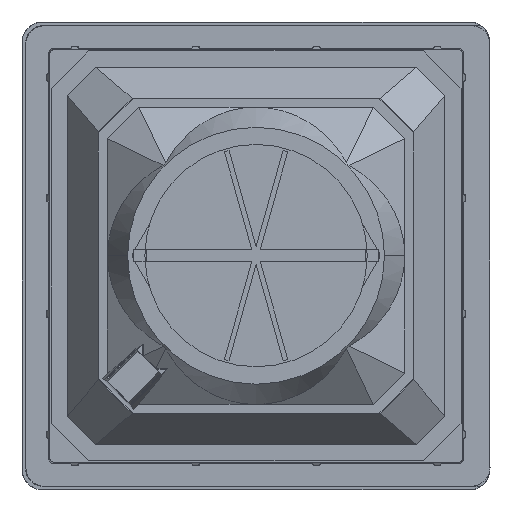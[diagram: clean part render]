
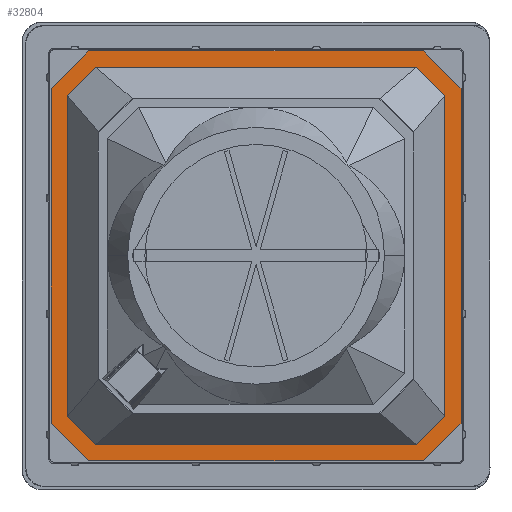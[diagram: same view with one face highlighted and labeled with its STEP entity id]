
A CAD part, top view. The second image highlights one B-rep face of the part: STEP entity #32804.
In plain terms, the highlighted planar face has unit normal (0, 0, 1) as drawn and (0, -1, 0) by its records, which use the part's own axes.
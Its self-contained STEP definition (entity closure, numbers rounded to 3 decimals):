
#233 = DIRECTION ( 'NONE',  ( 0.709, 0., -0.705 ) ) ;
#280 = VERTEX_POINT ( 'NONE', #30548 ) ;
#289 = DIRECTION ( 'NONE',  ( 0., 0., 1. ) ) ;
#455 = ORIENTED_EDGE ( 'NONE', *, *, #34379, .F. ) ;
#550 = DIRECTION ( 'NONE',  ( 0.707, 0., 0.707 ) ) ;
#623 = LINE ( 'NONE', #2742, #21824 ) ;
#698 = VERTEX_POINT ( 'NONE', #18948 ) ;
#1031 = CARTESIAN_POINT ( 'NONE',  ( -142.35, -95.872, 142.35 ) ) ;
#1241 = DIRECTION ( 'NONE',  ( -0.707, 0., 0.707 ) ) ;
#1847 = VERTEX_POINT ( 'NONE', #13778 ) ;
#1862 = CARTESIAN_POINT ( 'NONE',  ( -142.35, -95.872, 0. ) ) ;
#1927 = CARTESIAN_POINT ( 'NONE',  ( -111.488, -95.872, 131.21 ) ) ;
#1941 = CARTESIAN_POINT ( 'NONE',  ( -142.35, -95.872, -116.301 ) ) ;
#2088 = ORIENTED_EDGE ( 'NONE', *, *, #15304, .F. ) ;
#2500 = ORIENTED_EDGE ( 'NONE', *, *, #7179, .T. ) ;
#2742 = CARTESIAN_POINT ( 'NONE',  ( -13.025, -95.872, 271.675 ) ) ;
#2807 = EDGE_LOOP ( 'NONE', ( #11866, #8388, #28925, #12935, #8085, #2500, #12110, #3244 ) ) ;
#3244 = ORIENTED_EDGE ( 'NONE', *, *, #6241, .T. ) ;
#4212 = LINE ( 'NONE', #4373, #20444 ) ;
#4296 = LINE ( 'NONE', #26080, #27363 ) ;
#4373 = CARTESIAN_POINT ( 'NONE',  ( 0., -95.872, -131.21 ) ) ;
#4504 = AXIS2_PLACEMENT_3D ( 'NONE', #1031, #17331, #14627 ) ;
#4759 = CARTESIAN_POINT ( 'NONE',  ( 111.488, -95.872, -131.21 ) ) ;
#6241 = EDGE_CURVE ( 'NONE', #25607, #34564, #30749, .T. ) ;
#6312 = VECTOR ( 'NONE', #12032, 1000. ) ;
#7042 = DIRECTION ( 'NONE',  ( 0., 0., -1. ) ) ;
#7179 = EDGE_CURVE ( 'NONE', #25467, #10070, #13829, .T. ) ;
#8085 = ORIENTED_EDGE ( 'NONE', *, *, #24627, .T. ) ;
#8388 = ORIENTED_EDGE ( 'NONE', *, *, #23930, .T. ) ;
#8708 = EDGE_CURVE ( 'NONE', #34564, #24334, #10946, .T. ) ;
#8940 = DIRECTION ( 'NONE',  ( 1., 0., 0. ) ) ;
#9088 = PLANE ( 'NONE',  #4504 ) ;
#9209 = VECTOR ( 'NONE', #8940, 1000. ) ;
#9273 = LINE ( 'NONE', #25338, #19302 ) ;
#9391 = LINE ( 'NONE', #1862, #17785 ) ;
#9484 = CARTESIAN_POINT ( 'NONE',  ( 0., -95.872, -142.35 ) ) ;
#9847 = DIRECTION ( 'NONE',  ( -0.707, 0., -0.707 ) ) ;
#10070 = VERTEX_POINT ( 'NONE', #19174 ) ;
#10090 = CARTESIAN_POINT ( 'NONE',  ( -131.21, -95.872, -111.488 ) ) ;
#10151 = DIRECTION ( 'NONE',  ( -0.709, 0., -0.705 ) ) ;
#10818 = VERTEX_POINT ( 'NONE', #10090 ) ;
#10946 = LINE ( 'NONE', #16124, #25614 ) ;
#11857 = CARTESIAN_POINT ( 'NONE',  ( 142.35, -95.872, -116.301 ) ) ;
#11866 = ORIENTED_EDGE ( 'NONE', *, *, #8708, .T. ) ;
#12032 = DIRECTION ( 'NONE',  ( 0.707, 0., 0.707 ) ) ;
#12110 = ORIENTED_EDGE ( 'NONE', *, *, #28928, .T. ) ;
#12168 = CARTESIAN_POINT ( 'NONE',  ( -129.326, -95.872, 129.258 ) ) ;
#12237 = EDGE_CURVE ( 'NONE', #23015, #10818, #31512, .T. ) ;
#12935 = ORIENTED_EDGE ( 'NONE', *, *, #25424, .T. ) ;
#13353 = VECTOR ( 'NONE', #233, 1000. ) ;
#13752 = EDGE_CURVE ( 'NONE', #10818, #698, #9273, .T. ) ;
#13778 = CARTESIAN_POINT ( 'NONE',  ( 131.21, -95.872, 111.488 ) ) ;
#13829 = LINE ( 'NONE', #24724, #13353 ) ;
#13991 = EDGE_CURVE ( 'NONE', #23228, #20259, #33481, .T. ) ;
#14627 = DIRECTION ( 'NONE',  ( 0., 0., -1. ) ) ;
#15226 = ORIENTED_EDGE ( 'NONE', *, *, #16985, .F. ) ;
#15304 = EDGE_CURVE ( 'NONE', #15811, #280, #27737, .T. ) ;
#15811 = VERTEX_POINT ( 'NONE', #4759 ) ;
#16124 = CARTESIAN_POINT ( 'NONE',  ( 142.35, -95.872, 0. ) ) ;
#16428 = DIRECTION ( 'NONE',  ( -1., 0., 0. ) ) ;
#16567 = CARTESIAN_POINT ( 'NONE',  ( 131.21, -95.872, 0. ) ) ;
#16640 = LINE ( 'NONE', #21825, #34254 ) ;
#16839 = DIRECTION ( 'NONE',  ( 0., 0., 1. ) ) ;
#16985 = EDGE_CURVE ( 'NONE', #34479, #23015, #4296, .T. ) ;
#17331 = DIRECTION ( 'NONE',  ( 0., -1., 0. ) ) ;
#17390 = EDGE_LOOP ( 'NONE', ( #34049, #29949, #27021, #15226, #23674, #455, #25372, #2088 ) ) ;
#17785 = VECTOR ( 'NONE', #29516, 1000. ) ;
#18033 = LINE ( 'NONE', #12168, #33042 ) ;
#18388 = VECTOR ( 'NONE', #7042, 1000. ) ;
#18948 = CARTESIAN_POINT ( 'NONE',  ( -111.488, -95.872, -131.21 ) ) ;
#19174 = CARTESIAN_POINT ( 'NONE',  ( -116.165, -95.872, -142.35 ) ) ;
#19302 = VECTOR ( 'NONE', #24790, 1000. ) ;
#19376 = CARTESIAN_POINT ( 'NONE',  ( 116.301, -95.872, -142.35 ) ) ;
#19698 = CARTESIAN_POINT ( 'NONE',  ( 111.488, -95.872, -131.21 ) ) ;
#20182 = LINE ( 'NONE', #31069, #27943 ) ;
#20259 = VERTEX_POINT ( 'NONE', #30645 ) ;
#20421 = CARTESIAN_POINT ( 'NONE',  ( -131.21, -95.872, 111.488 ) ) ;
#20444 = VECTOR ( 'NONE', #20655, 1000. ) ;
#20532 = EDGE_CURVE ( 'NONE', #23999, #34479, #16640, .T. ) ;
#20655 = DIRECTION ( 'NONE',  ( 1., 0., 0. ) ) ;
#21436 = CARTESIAN_POINT ( 'NONE',  ( 116.301, -95.872, 142.35 ) ) ;
#21686 = VECTOR ( 'NONE', #289, 1000. ) ;
#21824 = VECTOR ( 'NONE', #29922, 1000. ) ;
#21825 = CARTESIAN_POINT ( 'NONE',  ( 0., -95.872, 131.21 ) ) ;
#22133 = VERTEX_POINT ( 'NONE', #28272 ) ;
#22769 = VECTOR ( 'NONE', #31166, 1000. ) ;
#23015 = VERTEX_POINT ( 'NONE', #33465 ) ;
#23228 = VERTEX_POINT ( 'NONE', #21436 ) ;
#23367 = FACE_OUTER_BOUND ( 'NONE', #2807, .T. ) ;
#23674 = ORIENTED_EDGE ( 'NONE', *, *, #20532, .F. ) ;
#23930 = EDGE_CURVE ( 'NONE', #24334, #23228, #623, .T. ) ;
#23999 = VERTEX_POINT ( 'NONE', #30288 ) ;
#24334 = VERTEX_POINT ( 'NONE', #24905 ) ;
#24603 = VECTOR ( 'NONE', #550, 1000. ) ;
#24627 = EDGE_CURVE ( 'NONE', #22133, #25467, #9391, .T. ) ;
#24724 = CARTESIAN_POINT ( 'NONE',  ( -271.674, -95.872, 12.351 ) ) ;
#24790 = DIRECTION ( 'NONE',  ( 0.707, 0., -0.707 ) ) ;
#24905 = CARTESIAN_POINT ( 'NONE',  ( 142.35, -95.872, 116.301 ) ) ;
#25338 = CARTESIAN_POINT ( 'NONE',  ( -131.21, -95.872, -111.488 ) ) ;
#25372 = ORIENTED_EDGE ( 'NONE', *, *, #26895, .F. ) ;
#25424 = EDGE_CURVE ( 'NONE', #20259, #22133, #18033, .T. ) ;
#25467 = VERTEX_POINT ( 'NONE', #1941 ) ;
#25607 = VERTEX_POINT ( 'NONE', #19376 ) ;
#25614 = VECTOR ( 'NONE', #16839, 1000. ) ;
#26080 = CARTESIAN_POINT ( 'NONE',  ( -111.488, -95.872, 131.21 ) ) ;
#26895 = EDGE_CURVE ( 'NONE', #280, #1847, #35306, .T. ) ;
#27021 = ORIENTED_EDGE ( 'NONE', *, *, #12237, .F. ) ;
#27363 = VECTOR ( 'NONE', #9847, 1000. ) ;
#27737 = LINE ( 'NONE', #19698, #6312 ) ;
#27890 = CARTESIAN_POINT ( 'NONE',  ( 129.325, -95.872, -129.325 ) ) ;
#27943 = VECTOR ( 'NONE', #1241, 1000. ) ;
#28272 = CARTESIAN_POINT ( 'NONE',  ( -142.35, -95.872, 116.301 ) ) ;
#28317 = CARTESIAN_POINT ( 'NONE',  ( 0., -95.872, 142.35 ) ) ;
#28749 = EDGE_CURVE ( 'NONE', #698, #15811, #4212, .T. ) ;
#28750 = FACE_BOUND ( 'NONE', #17390, .T. ) ;
#28925 = ORIENTED_EDGE ( 'NONE', *, *, #13991, .T. ) ;
#28928 = EDGE_CURVE ( 'NONE', #10070, #25607, #33951, .T. ) ;
#29516 = DIRECTION ( 'NONE',  ( 0., 0., -1. ) ) ;
#29922 = DIRECTION ( 'NONE',  ( -0.707, 0., 0.707 ) ) ;
#29949 = ORIENTED_EDGE ( 'NONE', *, *, #13752, .F. ) ;
#30288 = CARTESIAN_POINT ( 'NONE',  ( 111.488, -95.872, 131.21 ) ) ;
#30548 = CARTESIAN_POINT ( 'NONE',  ( 131.21, -95.872, -111.488 ) ) ;
#30645 = CARTESIAN_POINT ( 'NONE',  ( -116.165, -95.872, 142.35 ) ) ;
#30749 = LINE ( 'NONE', #27890, #24603 ) ;
#31069 = CARTESIAN_POINT ( 'NONE',  ( 131.21, -95.872, 111.488 ) ) ;
#31166 = DIRECTION ( 'NONE',  ( -1., 0., 0. ) ) ;
#31512 = LINE ( 'NONE', #20421, #18388 ) ;
#32804 = ADVANCED_FACE ( 'NONE', ( #28750, #23367 ), #9088, .T. ) ;
#33042 = VECTOR ( 'NONE', #10151, 1000. ) ;
#33465 = CARTESIAN_POINT ( 'NONE',  ( -131.21, -95.872, 111.488 ) ) ;
#33481 = LINE ( 'NONE', #28317, #22769 ) ;
#33951 = LINE ( 'NONE', #9484, #9209 ) ;
#34049 = ORIENTED_EDGE ( 'NONE', *, *, #28749, .F. ) ;
#34254 = VECTOR ( 'NONE', #16428, 1000. ) ;
#34379 = EDGE_CURVE ( 'NONE', #1847, #23999, #20182, .T. ) ;
#34479 = VERTEX_POINT ( 'NONE', #1927 ) ;
#34564 = VERTEX_POINT ( 'NONE', #11857 ) ;
#35306 = LINE ( 'NONE', #16567, #21686 ) ;
